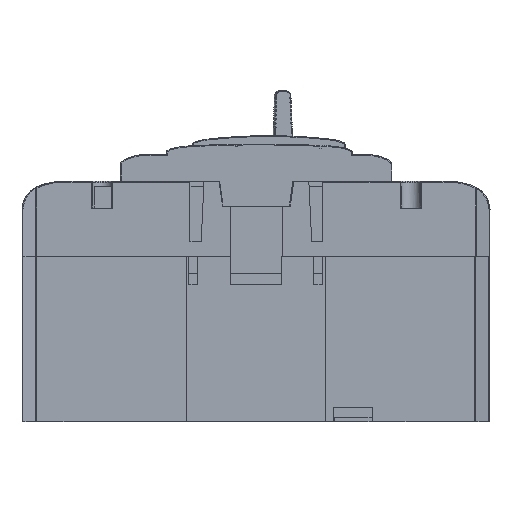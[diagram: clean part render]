
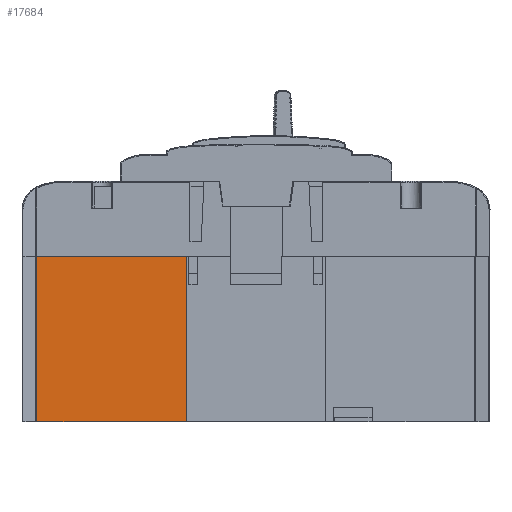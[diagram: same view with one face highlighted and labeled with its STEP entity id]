
A CAD part, left-side view. The second image highlights one B-rep face of the part: STEP entity #17684.
In plain terms, the highlighted planar face has unit normal (-1, 0, 0).
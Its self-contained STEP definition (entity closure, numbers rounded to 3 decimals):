
#1945=DIRECTION('',(0.,-1.,0.));
#1946=VECTOR('',#1945,52.717);
#1947=CARTESIAN_POINT('',(-550.8,77.3,-85.));
#1948=LINE('',#1947,#1946);
#6075=DIRECTION('',(0.,0.,-1.));
#6076=VECTOR('',#6075,58.5);
#6077=CARTESIAN_POINT('',(-550.8,77.3,-26.5));
#6078=LINE('',#6077,#6076);
#6079=DIRECTION('',(0.,-1.,0.));
#6080=VECTOR('',#6079,52.717);
#6081=CARTESIAN_POINT('',(-550.8,77.3,-26.5));
#6082=LINE('',#6081,#6080);
#6087=DIRECTION('',(0.,0.,1.));
#6088=VECTOR('',#6087,58.5);
#6089=CARTESIAN_POINT('',(-550.8,24.583,-85.));
#6090=LINE('',#6089,#6088);
#7076=CARTESIAN_POINT('',(-550.8,77.3,-85.));
#7077=VERTEX_POINT('',#7076);
#7078=CARTESIAN_POINT('',(-550.8,24.583,-85.));
#7079=VERTEX_POINT('',#7078);
#7524=CARTESIAN_POINT('',(-550.8,24.583,-26.5));
#7525=VERTEX_POINT('',#7524);
#7526=CARTESIAN_POINT('',(-550.8,77.3,-26.5));
#7527=VERTEX_POINT('',#7526);
#17672=CARTESIAN_POINT('',(-550.8,76.891,-79.5));
#17673=DIRECTION('',(-1.,0.,0.));
#17674=DIRECTION('',(0.,0.,1.));
#17675=AXIS2_PLACEMENT_3D('',#17672,#17673,#17674);
#17676=PLANE('',#17675);
#17677=ORIENTED_EDGE('',*,*,#10772,.T.);
#17679=ORIENTED_EDGE('',*,*,#17678,.F.);
#17680=ORIENTED_EDGE('',*,*,#11561,.F.);
#17681=ORIENTED_EDGE('',*,*,#17667,.F.);
#17682=EDGE_LOOP('',(#17677,#17679,#17680,#17681));
#17683=FACE_OUTER_BOUND('',#17682,.F.);
#17684=ADVANCED_FACE('',(#17683),#17676,.T.);
#10772=EDGE_CURVE('',#7527,#7525,#6082,.T.);
#11561=EDGE_CURVE('',#7077,#7079,#1948,.T.);
#17667=EDGE_CURVE('',#7527,#7077,#6078,.T.);
#17678=EDGE_CURVE('',#7079,#7525,#6090,.T.);
